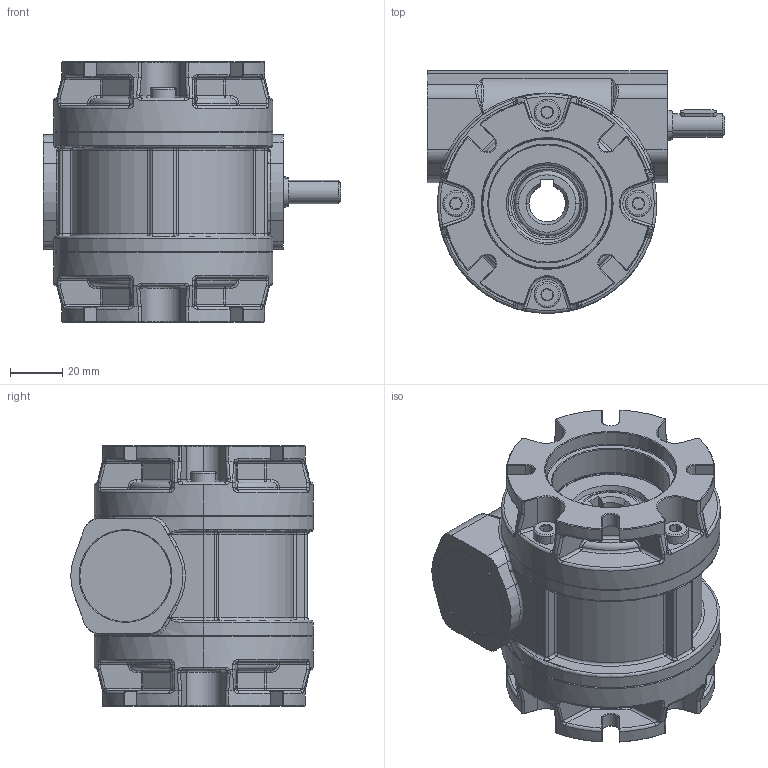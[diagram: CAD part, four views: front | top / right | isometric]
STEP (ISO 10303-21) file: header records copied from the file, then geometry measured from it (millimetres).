
FILE_DESCRIPTION (( 'STEP AP214' ), '1' );
FILE_NAME ('RT30-FFRL.STEP', '2007-08-15T08:27:30', ( '' ), ( '' ), 'SwSTEP 2.0', 'SolidWorks 2004146', '' );
FILE_SCHEMA (( 'AUTOMOTIVE_DESIGN' ));
Length unit declared in the file: millimetre
Products named in the file (16): gufero 12-32-7_Výchozí; SnekRT; DIN 7984_M6x12_Šroub DIN 7984 - M6x12; vicko nbr 35_Výchozí; N024630_Ložisko ZKL 6201A ÈSN 024630; FFPRIRUBA_Výchozí; DIN 7984_M6x16_Šroub DIN 7984 - M6x20; CSN 024630_SKF 6005_Ložisko SKF 6005 ÈSN 024630; Snekove ozubeni 002PILIB; skrin_30_63_Skrin RT; RT30-FFRL; CSN 022931_47_Kroužek 47 ÈSN 022931; DIN 3760-NB_A 25x47x7_Tìsnìní A 25x47x7 DIN 3760-NB; naboj_Výchozí; CSN 022931_35_Kroužek 35 ÈSN 022931; CSN 024630_SKF 6300_Ložisko SKF 6300 ÈSN 024630
Assembly tree (23 placements, depth 2):
  RT30-FFRL
    Snekove ozubeni 002PILIB
    DIN 7984_M6x12_Šroub DIN 7984 - M6x12
    FFPRIRUBA_Výchozí  x2
    CSN 022931_47_Kroužek 47 ÈSN 022931  x2
    DIN 7984_M6x16_Šroub DIN 7984 - M6x20  x5
    DIN 3760-NB_A 25x47x7_Tìsnìní A 25x47x7 DIN 3760-NB  x2
    CSN 024630_SKF 6300_Ložisko SKF 6300 ÈSN 024630
    CSN 022931_35_Kroužek 35 ÈSN 022931
    vicko nbr 35_Výchozí
    skrin_30_63_Skrin RT
    N024630_Ložisko ZKL 6201A ÈSN 024630
    gufero 12-32-7_Výchozí
    CSN 024630_SKF 6005_Ložisko SKF 6005 ÈSN 024630  x2
    SnekRT
    naboj_Výchozí
Bounding box: 114.1 x 93 x 100 mm (x, y, z)
Volume: 359205.9 mm3; surface area: 172052.7 mm2
Topology: 23 solids, 23 shells, 2265 faces, 5866 edges, 3535 vertices
Faces by surface type: cylinder 672, cone 452, plane 431, torus 353, bspline 211, sphere 146
Entity records: 94769 total; most frequent: CARTESIAN_POINT 57008, ORIENTED_EDGE 8102, DIRECTION 7357, EDGE_CURVE 4051, AXIS2_PLACEMENT_3D 3231, VERTEX_POINT 2499, CIRCLE 1755, EDGE_LOOP 1680
